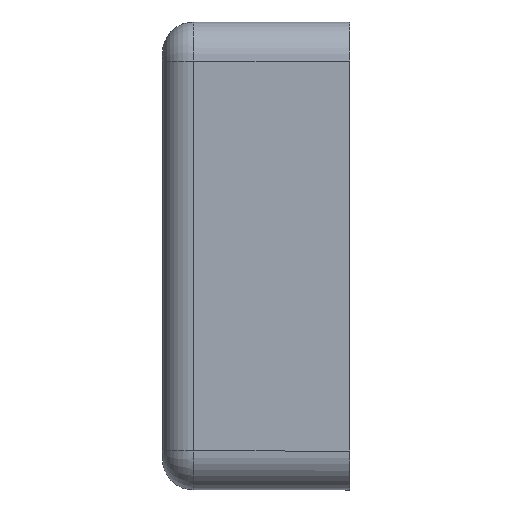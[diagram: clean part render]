
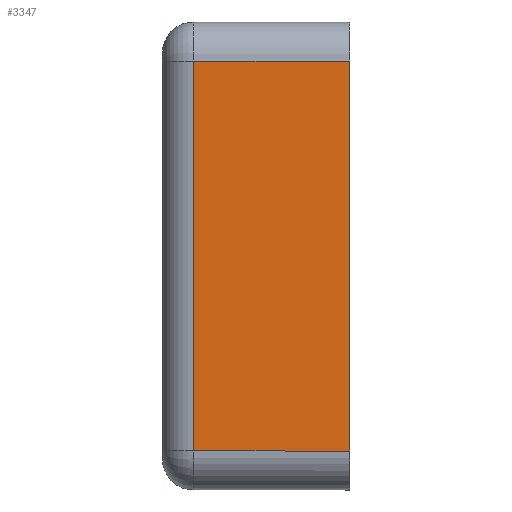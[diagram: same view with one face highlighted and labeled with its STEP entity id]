
A CAD part, left-side view. The second image highlights one B-rep face of the part: STEP entity #3347.
In plain terms, the highlighted planar face has unit normal (-1, 0, 0).
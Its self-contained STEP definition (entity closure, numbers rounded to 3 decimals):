
#36 = CARTESIAN_POINT ( 'NONE',  ( -30., -6., 21. ) ) ;
#37 = AXIS2_PLACEMENT_3D ( 'NONE', #887, #149, #2549 ) ;
#87 = ORIENTED_EDGE ( 'NONE', *, *, #5847, .F. ) ;
#149 = DIRECTION ( 'NONE',  ( 1., 0., 0. ) ) ;
#345 = VERTEX_POINT ( 'NONE', #1181 ) ;
#395 = LINE ( 'NONE', #4448, #2810 ) ;
#778 = FACE_OUTER_BOUND ( 'NONE', #4881, .T. ) ;
#887 = CARTESIAN_POINT ( 'NONE',  ( -30., 6., -9. ) ) ;
#954 = LINE ( 'NONE', #6076, #2225 ) ;
#1126 = ORIENTED_EDGE ( 'NONE', *, *, #5608, .F. ) ;
#1181 = CARTESIAN_POINT ( 'NONE',  ( -30., -6., -6.5 ) ) ;
#1574 = DIRECTION ( 'NONE',  ( 0., 0., -1. ) ) ;
#1610 = PLANE ( 'NONE',  #37 ) ;
#1898 = CARTESIAN_POINT ( 'NONE',  ( -30., 6., -6.5 ) ) ;
#1969 = DIRECTION ( 'NONE',  ( 0., 1., 0. ) ) ;
#2075 = EDGE_CURVE ( 'NONE', #3890, #5974, #954, .T. ) ;
#2099 = DIRECTION ( 'NONE',  ( 0., -1., 0. ) ) ;
#2220 = LINE ( 'NONE', #36, #3348 ) ;
#2225 = VECTOR ( 'NONE', #3090, 1000. ) ;
#2385 = EDGE_CURVE ( 'NONE', #2508, #345, #2220, .T. ) ;
#2508 = VERTEX_POINT ( 'NONE', #4256 ) ;
#2549 = DIRECTION ( 'NONE',  ( 0., 1., 0. ) ) ;
#2810 = VECTOR ( 'NONE', #2099, 1000. ) ;
#2820 = ORIENTED_EDGE ( 'NONE', *, *, #2075, .F. ) ;
#3090 = DIRECTION ( 'NONE',  ( 0., 0., 1. ) ) ;
#3347 = ADVANCED_FACE ( 'NONE', ( #778 ), #1610, .F. ) ;
#3348 = VECTOR ( 'NONE', #1574, 1000. ) ;
#3890 = VERTEX_POINT ( 'NONE', #4392 ) ;
#4152 = CARTESIAN_POINT ( 'NONE',  ( -30., 4., 18.5 ) ) ;
#4256 = CARTESIAN_POINT ( 'NONE',  ( -30., -6., 18.5 ) ) ;
#4392 = CARTESIAN_POINT ( 'NONE',  ( -30., 4., -6.5 ) ) ;
#4448 = CARTESIAN_POINT ( 'NONE',  ( -30., 6., 18.5 ) ) ;
#4881 = EDGE_LOOP ( 'NONE', ( #1126, #5147, #87, #2820 ) ) ;
#5147 = ORIENTED_EDGE ( 'NONE', *, *, #2385, .F. ) ;
#5518 = LINE ( 'NONE', #1898, #5986 ) ;
#5608 = EDGE_CURVE ( 'NONE', #345, #3890, #5518, .T. ) ;
#5847 = EDGE_CURVE ( 'NONE', #5974, #2508, #395, .T. ) ;
#5974 = VERTEX_POINT ( 'NONE', #4152 ) ;
#5986 = VECTOR ( 'NONE', #1969, 1000. ) ;
#6076 = CARTESIAN_POINT ( 'NONE',  ( -30., 4., -9. ) ) ;
